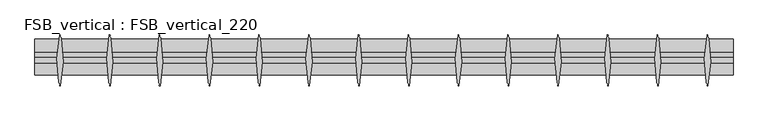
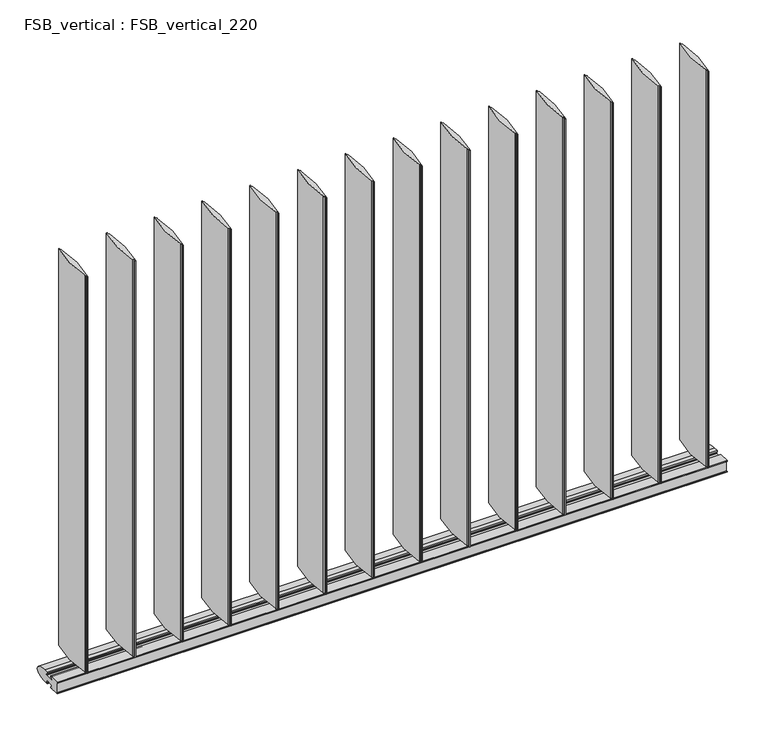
"""IFC4 building model written with IfcOpenShell, lengths in millimetres: proxy geometry, FSB_vertical : FSB_vertical_220."""

from ifc_helpers import new_model, si_unit, point, frame, frame_2d, origin, place, context, project, spatial, polyline, circle_curve, ellipse_curve, trimmed, segment, composite_curve, outline, extrude, source, transform, mapped, element, save
from ifc_brep_helpers import plane_surface, cylinder_surface, extruded_surface, advanced_brep


def fsb_vertical_fsb_vertical_220_f4ea950b(model_context):
    return source(origin(), model_context, "Body", "SolidModel", [
        extrude(outline(composite_curve([segment(polyline([(-1393.153539, 100.4881689), (-1391.2909379, 100.0769109)]), True, "CONTINUOUS"), segment(trimmed(circle_curve(frame_2d((-1392.3688535, 95.1949955)), 4.9995), [point((-1391.2909379, 100.0769109))], [point((-1387.4530862, 96.1061666))], False, "CARTESIAN"), True, "CONTINUOUS"), segment(trimmed(circle_curve(frame_2d((-1905.9456199, 2.31e-05)), 527.3242819), [point((-1387.4530862, 96.1061666))], [point((-1390.2314662, -110.0445588))], False, "CARTESIAN"), True, "CONTINUOUS"), segment(polyline([(-1390.2314662, -110.0445588), (-1392.6719903, -109.5056968)]), True, "CONTINUOUS"), segment(trimmed(circle_curve(frame_2d((-1907.0113999, -0.6886)), 525.7244419), [point((-1392.6719903, -109.5056968))], [point((-1390.846461, -100.4881227))], True, "CARTESIAN"), True, "CONTINUOUS"), segment(polyline([(-1390.846461, -100.4881227), (-1392.7090621, -100.0768648)]), True, "CONTINUOUS"), segment(trimmed(circle_curve(frame_2d((-1391.6311465, -95.1949494)), 4.9995), [point((-1392.7090621, -100.0768648))], [point((-1396.5469138, -96.1061205))], False, "CARTESIAN"), True, "CONTINUOUS"), segment(trimmed(circle_curve(frame_2d((-878.0543801, 2.31e-05)), 527.3242819), [point((-1396.5469138, -96.1061205))], [point((-1393.7685338, 110.044605))], False, "CARTESIAN"), True, "CONTINUOUS"), segment(polyline([(-1393.7685338, 110.044605), (-1391.3280097, 109.505743)]), True, "CONTINUOUS"), segment(trimmed(circle_curve(frame_2d((-876.9886001, 0.6886462)), 525.7244419), [point((-1391.3280097, 109.505743))], [point((-1393.153539, 100.4881689))], True, "CARTESIAN"), True, "CONTINUOUS")], self_intersect=False)), frame((0.0, 0.0, 60.5), z_axis=(0.0, 0.0, 1.0), x_axis=(1.0, 0.0, 0.0)), (0.0, 0.0, 1.0), 1879.0),
        extrude(outline(composite_curve([segment(polyline([(-1179.153539, 100.4881689), (-1177.2909379, 100.0769109)]), True, "CONTINUOUS"), segment(trimmed(circle_curve(frame_2d((-1178.3688535, 95.1949955)), 4.9995), [point((-1177.2909379, 100.0769109))], [point((-1173.4530862, 96.1061666))], False, "CARTESIAN"), True, "CONTINUOUS"), segment(trimmed(circle_curve(frame_2d((-1691.9456199, 2.31e-05)), 527.3242819), [point((-1173.4530862, 96.1061666))], [point((-1176.2314662, -110.0445588))], False, "CARTESIAN"), True, "CONTINUOUS"), segment(polyline([(-1176.2314662, -110.0445588), (-1178.6719903, -109.5056968)]), True, "CONTINUOUS"), segment(trimmed(circle_curve(frame_2d((-1693.0113999, -0.6886)), 525.7244419), [point((-1178.6719903, -109.5056968))], [point((-1176.846461, -100.4881227))], True, "CARTESIAN"), True, "CONTINUOUS"), segment(polyline([(-1176.846461, -100.4881227), (-1178.7090621, -100.0768648)]), True, "CONTINUOUS"), segment(trimmed(circle_curve(frame_2d((-1177.6311465, -95.1949494)), 4.9995), [point((-1178.7090621, -100.0768648))], [point((-1182.5469138, -96.1061205))], False, "CARTESIAN"), True, "CONTINUOUS"), segment(trimmed(circle_curve(frame_2d((-664.0543801, 2.31e-05)), 527.3242819), [point((-1182.5469138, -96.1061205))], [point((-1179.7685338, 110.044605))], False, "CARTESIAN"), True, "CONTINUOUS"), segment(polyline([(-1179.7685338, 110.044605), (-1177.3280097, 109.505743)]), True, "CONTINUOUS"), segment(trimmed(circle_curve(frame_2d((-662.9886001, 0.6886462)), 525.7244419), [point((-1177.3280097, 109.505743))], [point((-1179.153539, 100.4881689))], True, "CARTESIAN"), True, "CONTINUOUS")], self_intersect=False)), frame((0.0, 0.0, 60.5), z_axis=(0.0, 0.0, 1.0), x_axis=(1.0, 0.0, 0.0)), (0.0, 0.0, 1.0), 1879.0),
        extrude(outline(composite_curve([segment(polyline([(-965.153539, 100.4881689), (-963.2909379, 100.0769109)]), True, "CONTINUOUS"), segment(trimmed(circle_curve(frame_2d((-964.3688535, 95.1949955)), 4.9995), [point((-963.2909379, 100.0769109))], [point((-959.4530862, 96.1061666))], False, "CARTESIAN"), True, "CONTINUOUS"), segment(trimmed(circle_curve(frame_2d((-1477.9456199, 2.31e-05)), 527.3242819), [point((-959.4530862, 96.1061666))], [point((-962.2314662, -110.0445588))], False, "CARTESIAN"), True, "CONTINUOUS"), segment(polyline([(-962.2314662, -110.0445588), (-964.6719903, -109.5056968)]), True, "CONTINUOUS"), segment(trimmed(circle_curve(frame_2d((-1479.0113999, -0.6886)), 525.7244419), [point((-964.6719903, -109.5056968))], [point((-962.846461, -100.4881227))], True, "CARTESIAN"), True, "CONTINUOUS"), segment(polyline([(-962.846461, -100.4881227), (-964.7090621, -100.0768648)]), True, "CONTINUOUS"), segment(trimmed(circle_curve(frame_2d((-963.6311465, -95.1949494)), 4.9995), [point((-964.7090621, -100.0768648))], [point((-968.5469138, -96.1061205))], False, "CARTESIAN"), True, "CONTINUOUS"), segment(trimmed(circle_curve(frame_2d((-450.0543801, 2.31e-05)), 527.3242819), [point((-968.5469138, -96.1061205))], [point((-965.7685338, 110.044605))], False, "CARTESIAN"), True, "CONTINUOUS"), segment(polyline([(-965.7685338, 110.044605), (-963.3280097, 109.505743)]), True, "CONTINUOUS"), segment(trimmed(circle_curve(frame_2d((-448.9886001, 0.6886462)), 525.7244419), [point((-963.3280097, 109.505743))], [point((-965.153539, 100.4881689))], True, "CARTESIAN"), True, "CONTINUOUS")], self_intersect=False)), frame((0.0, 0.0, 60.5), z_axis=(0.0, 0.0, 1.0), x_axis=(1.0, 0.0, 0.0)), (0.0, 0.0, 1.0), 1879.0),
        extrude(outline(composite_curve([segment(polyline([(-751.153539, 100.4881689), (-749.2909379, 100.0769109)]), True, "CONTINUOUS"), segment(trimmed(circle_curve(frame_2d((-750.3688535, 95.1949955)), 4.9995), [point((-749.2909379, 100.0769109))], [point((-745.4530862, 96.1061666))], False, "CARTESIAN"), True, "CONTINUOUS"), segment(trimmed(circle_curve(frame_2d((-1263.9456199, 2.31e-05)), 527.3242819), [point((-745.4530862, 96.1061666))], [point((-748.2314662, -110.0445588))], False, "CARTESIAN"), True, "CONTINUOUS"), segment(polyline([(-748.2314662, -110.0445588), (-750.6719903, -109.5056968)]), True, "CONTINUOUS"), segment(trimmed(circle_curve(frame_2d((-1265.0113999, -0.6886)), 525.7244419), [point((-750.6719903, -109.5056968))], [point((-748.846461, -100.4881227))], True, "CARTESIAN"), True, "CONTINUOUS"), segment(polyline([(-748.846461, -100.4881227), (-750.7090621, -100.0768648)]), True, "CONTINUOUS"), segment(trimmed(circle_curve(frame_2d((-749.6311465, -95.1949494)), 4.9995), [point((-750.7090621, -100.0768648))], [point((-754.5469138, -96.1061205))], False, "CARTESIAN"), True, "CONTINUOUS"), segment(trimmed(circle_curve(frame_2d((-236.0543801, 2.31e-05)), 527.3242819), [point((-754.5469138, -96.1061205))], [point((-751.7685338, 110.044605))], False, "CARTESIAN"), True, "CONTINUOUS"), segment(polyline([(-751.7685338, 110.044605), (-749.3280097, 109.505743)]), True, "CONTINUOUS"), segment(trimmed(circle_curve(frame_2d((-234.9886001, 0.6886462)), 525.7244419), [point((-749.3280097, 109.505743))], [point((-751.153539, 100.4881689))], True, "CARTESIAN"), True, "CONTINUOUS")], self_intersect=False)), frame((0.0, 0.0, 60.5), z_axis=(0.0, 0.0, 1.0), x_axis=(1.0, 0.0, 0.0)), (0.0, 0.0, 1.0), 1879.0),
        extrude(outline(composite_curve([segment(polyline([(-537.153539, 100.4881689), (-535.2909379, 100.0769109)]), True, "CONTINUOUS"), segment(trimmed(circle_curve(frame_2d((-536.3688535, 95.1949955)), 4.9995), [point((-535.2909379, 100.0769109))], [point((-531.4530862, 96.1061666))], False, "CARTESIAN"), True, "CONTINUOUS"), segment(trimmed(circle_curve(frame_2d((-1049.9456199, 2.31e-05)), 527.3242819), [point((-531.4530862, 96.1061666))], [point((-534.2314662, -110.0445588))], False, "CARTESIAN"), True, "CONTINUOUS"), segment(polyline([(-534.2314662, -110.0445588), (-536.6719903, -109.5056968)]), True, "CONTINUOUS"), segment(trimmed(circle_curve(frame_2d((-1051.0113999, -0.6886)), 525.7244419), [point((-536.6719903, -109.5056968))], [point((-534.846461, -100.4881227))], True, "CARTESIAN"), True, "CONTINUOUS"), segment(polyline([(-534.846461, -100.4881227), (-536.7090621, -100.0768648)]), True, "CONTINUOUS"), segment(trimmed(circle_curve(frame_2d((-535.6311465, -95.1949494)), 4.9995), [point((-536.7090621, -100.0768648))], [point((-540.5469138, -96.1061205))], False, "CARTESIAN"), True, "CONTINUOUS"), segment(trimmed(circle_curve(frame_2d((-22.0543801, 2.31e-05)), 527.3242819), [point((-540.5469138, -96.1061205))], [point((-537.7685338, 110.044605))], False, "CARTESIAN"), True, "CONTINUOUS"), segment(polyline([(-537.7685338, 110.044605), (-535.3280097, 109.505743)]), True, "CONTINUOUS"), segment(trimmed(circle_curve(frame_2d((-20.9886001, 0.6886462)), 525.7244419), [point((-535.3280097, 109.505743))], [point((-537.153539, 100.4881689))], True, "CARTESIAN"), True, "CONTINUOUS")], self_intersect=False)), frame((0.0, 0.0, 60.5), z_axis=(0.0, 0.0, 1.0), x_axis=(1.0, 0.0, 0.0)), (0.0, 0.0, 1.0), 1879.0),
        extrude(outline(composite_curve([segment(polyline([(-323.153539, 100.4881689), (-321.2909379, 100.0769109)]), True, "CONTINUOUS"), segment(trimmed(circle_curve(frame_2d((-322.3688535, 95.1949955)), 4.9995), [point((-321.2909379, 100.0769109))], [point((-317.4530862, 96.1061666))], False, "CARTESIAN"), True, "CONTINUOUS"), segment(trimmed(circle_curve(frame_2d((-835.9456199, 2.31e-05)), 527.3242819), [point((-317.4530862, 96.1061666))], [point((-320.2314662, -110.0445588))], False, "CARTESIAN"), True, "CONTINUOUS"), segment(polyline([(-320.2314662, -110.0445588), (-322.6719903, -109.5056968)]), True, "CONTINUOUS"), segment(trimmed(circle_curve(frame_2d((-837.0113999, -0.6886)), 525.7244419), [point((-322.6719903, -109.5056968))], [point((-320.846461, -100.4881227))], True, "CARTESIAN"), True, "CONTINUOUS"), segment(polyline([(-320.846461, -100.4881227), (-322.7090621, -100.0768648)]), True, "CONTINUOUS"), segment(trimmed(circle_curve(frame_2d((-321.6311465, -95.1949494)), 4.9995), [point((-322.7090621, -100.0768648))], [point((-326.5469138, -96.1061205))], False, "CARTESIAN"), True, "CONTINUOUS"), segment(trimmed(circle_curve(frame_2d((191.9456199, 2.31e-05)), 527.3242819), [point((-326.5469138, -96.1061205))], [point((-323.7685338, 110.044605))], False, "CARTESIAN"), True, "CONTINUOUS"), segment(polyline([(-323.7685338, 110.044605), (-321.3280097, 109.505743)]), True, "CONTINUOUS"), segment(trimmed(circle_curve(frame_2d((193.0113999, 0.6886462)), 525.7244419), [point((-321.3280097, 109.505743))], [point((-323.153539, 100.4881689))], True, "CARTESIAN"), True, "CONTINUOUS")], self_intersect=False)), frame((0.0, 0.0, 60.5), z_axis=(0.0, 0.0, 1.0), x_axis=(1.0, 0.0, 0.0)), (0.0, 0.0, 1.0), 1879.0),
        extrude(outline(composite_curve([segment(polyline([(-109.153539, 100.4881689), (-107.2909379, 100.0769109)]), True, "CONTINUOUS"), segment(trimmed(circle_curve(frame_2d((-108.3688535, 95.1949955)), 4.9995), [point((-107.2909379, 100.0769109))], [point((-103.4530862, 96.1061666))], False, "CARTESIAN"), True, "CONTINUOUS"), segment(trimmed(circle_curve(frame_2d((-621.9456199, 2.31e-05)), 527.3242819), [point((-103.4530862, 96.1061666))], [point((-106.2314662, -110.0445588))], False, "CARTESIAN"), True, "CONTINUOUS"), segment(polyline([(-106.2314662, -110.0445588), (-108.6719903, -109.5056968)]), True, "CONTINUOUS"), segment(trimmed(circle_curve(frame_2d((-623.0113999, -0.6886)), 525.7244419), [point((-108.6719903, -109.5056968))], [point((-106.846461, -100.4881227))], True, "CARTESIAN"), True, "CONTINUOUS"), segment(polyline([(-106.846461, -100.4881227), (-108.7090621, -100.0768648)]), True, "CONTINUOUS"), segment(trimmed(circle_curve(frame_2d((-107.6311465, -95.1949494)), 4.9995), [point((-108.7090621, -100.0768648))], [point((-112.5469138, -96.1061205))], False, "CARTESIAN"), True, "CONTINUOUS"), segment(trimmed(circle_curve(frame_2d((405.9456199, 2.31e-05)), 527.3242819), [point((-112.5469138, -96.1061205))], [point((-109.7685338, 110.044605))], False, "CARTESIAN"), True, "CONTINUOUS"), segment(polyline([(-109.7685338, 110.044605), (-107.3280097, 109.505743)]), True, "CONTINUOUS"), segment(trimmed(circle_curve(frame_2d((407.0113999, 0.6886462)), 525.7244419), [point((-107.3280097, 109.505743))], [point((-109.153539, 100.4881689))], True, "CARTESIAN"), True, "CONTINUOUS")], self_intersect=False)), frame((0.0, 0.0, 60.5), z_axis=(0.0, 0.0, 1.0), x_axis=(1.0, 0.0, 0.0)), (0.0, 0.0, 1.0), 1879.0),
        extrude(outline(composite_curve([segment(polyline([(104.846461, 100.4881689), (106.7090621, 100.0769109)]), True, "CONTINUOUS"), segment(trimmed(circle_curve(frame_2d((105.6311465, 95.1949955)), 4.9995), [point((106.7090621, 100.0769109))], [point((110.5469138, 96.1061666))], False, "CARTESIAN"), True, "CONTINUOUS"), segment(trimmed(circle_curve(frame_2d((-407.9456199, 2.31e-05)), 527.3242819), [point((110.5469138, 96.1061666))], [point((107.7685338, -110.0445588))], False, "CARTESIAN"), True, "CONTINUOUS"), segment(polyline([(107.7685338, -110.0445588), (105.3280097, -109.5056968)]), True, "CONTINUOUS"), segment(trimmed(circle_curve(frame_2d((-409.0113999, -0.6886)), 525.7244419), [point((105.3280097, -109.5056968))], [point((107.153539, -100.4881227))], True, "CARTESIAN"), True, "CONTINUOUS"), segment(polyline([(107.153539, -100.4881227), (105.2909379, -100.0768648)]), True, "CONTINUOUS"), segment(trimmed(circle_curve(frame_2d((106.3688535, -95.1949494)), 4.9995), [point((105.2909379, -100.0768648))], [point((101.4530862, -96.1061205))], False, "CARTESIAN"), True, "CONTINUOUS"), segment(trimmed(circle_curve(frame_2d((619.9456199, 2.31e-05)), 527.3242819), [point((101.4530862, -96.1061205))], [point((104.2314662, 110.044605))], False, "CARTESIAN"), True, "CONTINUOUS"), segment(polyline([(104.2314662, 110.044605), (106.6719903, 109.505743)]), True, "CONTINUOUS"), segment(trimmed(circle_curve(frame_2d((621.0113999, 0.6886462)), 525.7244419), [point((106.6719903, 109.505743))], [point((104.846461, 100.4881689))], True, "CARTESIAN"), True, "CONTINUOUS")], self_intersect=False)), frame((0.0, 0.0, 60.5), z_axis=(0.0, 0.0, 1.0), x_axis=(1.0, 0.0, 0.0)), (0.0, 0.0, 1.0), 1879.0),
        extrude(outline(composite_curve([segment(polyline([(318.846461, 100.4881689), (320.7090621, 100.0769109)]), True, "CONTINUOUS"), segment(trimmed(circle_curve(frame_2d((319.6311465, 95.1949955)), 4.9995), [point((320.7090621, 100.0769109))], [point((324.5469138, 96.1061666))], False, "CARTESIAN"), True, "CONTINUOUS"), segment(trimmed(circle_curve(frame_2d((-193.9456199, 2.31e-05)), 527.3242819), [point((324.5469138, 96.1061666))], [point((321.7685338, -110.0445588))], False, "CARTESIAN"), True, "CONTINUOUS"), segment(polyline([(321.7685338, -110.0445588), (319.3280097, -109.5056968)]), True, "CONTINUOUS"), segment(trimmed(circle_curve(frame_2d((-195.0113999, -0.6886)), 525.7244419), [point((319.3280097, -109.5056968))], [point((321.153539, -100.4881227))], True, "CARTESIAN"), True, "CONTINUOUS"), segment(polyline([(321.153539, -100.4881227), (319.2909379, -100.0768648)]), True, "CONTINUOUS"), segment(trimmed(circle_curve(frame_2d((320.3688535, -95.1949494)), 4.9995), [point((319.2909379, -100.0768648))], [point((315.4530862, -96.1061205))], False, "CARTESIAN"), True, "CONTINUOUS"), segment(trimmed(circle_curve(frame_2d((833.9456199, 2.31e-05)), 527.3242819), [point((315.4530862, -96.1061205))], [point((318.2314662, 110.044605))], False, "CARTESIAN"), True, "CONTINUOUS"), segment(polyline([(318.2314662, 110.044605), (320.6719903, 109.505743)]), True, "CONTINUOUS"), segment(trimmed(circle_curve(frame_2d((835.0113999, 0.6886462)), 525.7244419), [point((320.6719903, 109.505743))], [point((318.846461, 100.4881689))], True, "CARTESIAN"), True, "CONTINUOUS")], self_intersect=False)), frame((0.0, 0.0, 60.5), z_axis=(0.0, 0.0, 1.0), x_axis=(1.0, 0.0, 0.0)), (0.0, 0.0, 1.0), 1879.0),
        extrude(outline(composite_curve([segment(polyline([(532.846461, 100.4881689), (534.7090621, 100.0769109)]), True, "CONTINUOUS"), segment(trimmed(circle_curve(frame_2d((533.6311465, 95.1949955)), 4.9995), [point((534.7090621, 100.0769109))], [point((538.5469138, 96.1061666))], False, "CARTESIAN"), True, "CONTINUOUS"), segment(trimmed(circle_curve(frame_2d((20.0543801, 2.31e-05)), 527.3242819), [point((538.5469138, 96.1061666))], [point((535.7685338, -110.0445588))], False, "CARTESIAN"), True, "CONTINUOUS"), segment(polyline([(535.7685338, -110.0445588), (533.3280097, -109.5056968)]), True, "CONTINUOUS"), segment(trimmed(circle_curve(frame_2d((18.9886001, -0.6886)), 525.7244419), [point((533.3280097, -109.5056968))], [point((535.153539, -100.4881227))], True, "CARTESIAN"), True, "CONTINUOUS"), segment(polyline([(535.153539, -100.4881227), (533.2909379, -100.0768648)]), True, "CONTINUOUS"), segment(trimmed(circle_curve(frame_2d((534.3688535, -95.1949494)), 4.9995), [point((533.2909379, -100.0768648))], [point((529.4530862, -96.1061205))], False, "CARTESIAN"), True, "CONTINUOUS"), segment(trimmed(circle_curve(frame_2d((1047.9456199, 2.31e-05)), 527.3242819), [point((529.4530862, -96.1061205))], [point((532.2314662, 110.044605))], False, "CARTESIAN"), True, "CONTINUOUS"), segment(polyline([(532.2314662, 110.044605), (534.6719903, 109.505743)]), True, "CONTINUOUS"), segment(trimmed(circle_curve(frame_2d((1049.0113999, 0.6886462)), 525.7244419), [point((534.6719903, 109.505743))], [point((532.846461, 100.4881689))], True, "CARTESIAN"), True, "CONTINUOUS")], self_intersect=False)), frame((0.0, 0.0, 60.5), z_axis=(0.0, 0.0, 1.0), x_axis=(1.0, 0.0, 0.0)), (0.0, 0.0, 1.0), 1879.0),
        extrude(outline(composite_curve([segment(polyline([(746.846461, 100.4881689), (748.7090621, 100.0769109)]), True, "CONTINUOUS"), segment(trimmed(circle_curve(frame_2d((747.6311465, 95.1949955)), 4.9995), [point((748.7090621, 100.0769109))], [point((752.5469138, 96.1061666))], False, "CARTESIAN"), True, "CONTINUOUS"), segment(trimmed(circle_curve(frame_2d((234.0543801, 2.31e-05)), 527.3242819), [point((752.5469138, 96.1061666))], [point((749.7685338, -110.0445588))], False, "CARTESIAN"), True, "CONTINUOUS"), segment(polyline([(749.7685338, -110.0445588), (747.3280097, -109.5056968)]), True, "CONTINUOUS"), segment(trimmed(circle_curve(frame_2d((232.9886001, -0.6886)), 525.7244419), [point((747.3280097, -109.5056968))], [point((749.153539, -100.4881227))], True, "CARTESIAN"), True, "CONTINUOUS"), segment(polyline([(749.153539, -100.4881227), (747.2909379, -100.0768648)]), True, "CONTINUOUS"), segment(trimmed(circle_curve(frame_2d((748.3688535, -95.1949494)), 4.9995), [point((747.2909379, -100.0768648))], [point((743.4530862, -96.1061205))], False, "CARTESIAN"), True, "CONTINUOUS"), segment(trimmed(circle_curve(frame_2d((1261.9456199, 2.31e-05)), 527.3242819), [point((743.4530862, -96.1061205))], [point((746.2314662, 110.044605))], False, "CARTESIAN"), True, "CONTINUOUS"), segment(polyline([(746.2314662, 110.044605), (748.6719903, 109.505743)]), True, "CONTINUOUS"), segment(trimmed(circle_curve(frame_2d((1263.0113999, 0.6886462)), 525.7244419), [point((748.6719903, 109.505743))], [point((746.846461, 100.4881689))], True, "CARTESIAN"), True, "CONTINUOUS")], self_intersect=False)), frame((0.0, 0.0, 60.5), z_axis=(0.0, 0.0, 1.0), x_axis=(1.0, 0.0, 0.0)), (0.0, 0.0, 1.0), 1879.0),
        extrude(outline(composite_curve([segment(polyline([(960.846461, 100.4881689), (962.7090621, 100.0769109)]), True, "CONTINUOUS"), segment(trimmed(circle_curve(frame_2d((961.6311465, 95.1949955)), 4.9995), [point((962.7090621, 100.0769109))], [point((966.5469138, 96.1061666))], False, "CARTESIAN"), True, "CONTINUOUS"), segment(trimmed(circle_curve(frame_2d((448.0543801, 2.31e-05)), 527.3242819), [point((966.5469138, 96.1061666))], [point((963.7685338, -110.0445588))], False, "CARTESIAN"), True, "CONTINUOUS"), segment(polyline([(963.7685338, -110.0445588), (961.3280097, -109.5056968)]), True, "CONTINUOUS"), segment(trimmed(circle_curve(frame_2d((446.9886001, -0.6886)), 525.7244419), [point((961.3280097, -109.5056968))], [point((963.153539, -100.4881227))], True, "CARTESIAN"), True, "CONTINUOUS"), segment(polyline([(963.153539, -100.4881227), (961.2909379, -100.0768648)]), True, "CONTINUOUS"), segment(trimmed(circle_curve(frame_2d((962.3688535, -95.1949494)), 4.9995), [point((961.2909379, -100.0768648))], [point((957.4530862, -96.1061205))], False, "CARTESIAN"), True, "CONTINUOUS"), segment(trimmed(circle_curve(frame_2d((1475.9456199, 2.31e-05)), 527.3242819), [point((957.4530862, -96.1061205))], [point((960.2314662, 110.044605))], False, "CARTESIAN"), True, "CONTINUOUS"), segment(polyline([(960.2314662, 110.044605), (962.6719903, 109.505743)]), True, "CONTINUOUS"), segment(trimmed(circle_curve(frame_2d((1477.0113999, 0.6886462)), 525.7244419), [point((962.6719903, 109.505743))], [point((960.846461, 100.4881689))], True, "CARTESIAN"), True, "CONTINUOUS")], self_intersect=False)), frame((0.0, 0.0, 60.5), z_axis=(0.0, 0.0, 1.0), x_axis=(1.0, 0.0, 0.0)), (0.0, 0.0, 1.0), 1879.0),
        extrude(outline(composite_curve([segment(polyline([(1174.846461, 100.4881689), (1176.7090621, 100.0769109)]), True, "CONTINUOUS"), segment(trimmed(circle_curve(frame_2d((1175.6311465, 95.1949955)), 4.9995), [point((1176.7090621, 100.0769109))], [point((1180.5469138, 96.1061666))], False, "CARTESIAN"), True, "CONTINUOUS"), segment(trimmed(circle_curve(frame_2d((662.0543801, 2.31e-05)), 527.3242819), [point((1180.5469138, 96.1061666))], [point((1177.7685338, -110.0445588))], False, "CARTESIAN"), True, "CONTINUOUS"), segment(polyline([(1177.7685338, -110.0445588), (1175.3280097, -109.5056968)]), True, "CONTINUOUS"), segment(trimmed(circle_curve(frame_2d((660.9886001, -0.6886)), 525.7244419), [point((1175.3280097, -109.5056968))], [point((1177.153539, -100.4881227))], True, "CARTESIAN"), True, "CONTINUOUS"), segment(polyline([(1177.153539, -100.4881227), (1175.2909379, -100.0768648)]), True, "CONTINUOUS"), segment(trimmed(circle_curve(frame_2d((1176.3688535, -95.1949494)), 4.9995), [point((1175.2909379, -100.0768648))], [point((1171.4530862, -96.1061205))], False, "CARTESIAN"), True, "CONTINUOUS"), segment(trimmed(circle_curve(frame_2d((1689.9456199, 2.31e-05)), 527.3242819), [point((1171.4530862, -96.1061205))], [point((1174.2314662, 110.044605))], False, "CARTESIAN"), True, "CONTINUOUS"), segment(polyline([(1174.2314662, 110.044605), (1176.6719903, 109.505743)]), True, "CONTINUOUS"), segment(trimmed(circle_curve(frame_2d((1691.0113999, 0.6886462)), 525.7244419), [point((1176.6719903, 109.505743))], [point((1174.846461, 100.4881689))], True, "CARTESIAN"), True, "CONTINUOUS")], self_intersect=False)), frame((0.0, 0.0, 60.5), z_axis=(0.0, 0.0, 1.0), x_axis=(1.0, 0.0, 0.0)), (0.0, 0.0, 1.0), 1879.0),
        extrude(outline(composite_curve([segment(polyline([(1388.846461, 100.4881689), (1390.7090621, 100.0769109)]), True, "CONTINUOUS"), segment(trimmed(circle_curve(frame_2d((1389.6311465, 95.1949955)), 4.9995), [point((1390.7090621, 100.0769109))], [point((1394.5469138, 96.1061666))], False, "CARTESIAN"), True, "CONTINUOUS"), segment(trimmed(circle_curve(frame_2d((876.0543801, 2.31e-05)), 527.3242819), [point((1394.5469138, 96.1061666))], [point((1391.7685338, -110.0445588))], False, "CARTESIAN"), True, "CONTINUOUS"), segment(polyline([(1391.7685338, -110.0445588), (1389.3280097, -109.5056968)]), True, "CONTINUOUS"), segment(trimmed(circle_curve(frame_2d((874.9886001, -0.6886)), 525.7244419), [point((1389.3280097, -109.5056968))], [point((1391.153539, -100.4881227))], True, "CARTESIAN"), True, "CONTINUOUS"), segment(polyline([(1391.153539, -100.4881227), (1389.2909379, -100.0768648)]), True, "CONTINUOUS"), segment(trimmed(circle_curve(frame_2d((1390.3688535, -95.1949494)), 4.9995), [point((1389.2909379, -100.0768648))], [point((1385.4530862, -96.1061205))], False, "CARTESIAN"), True, "CONTINUOUS"), segment(trimmed(circle_curve(frame_2d((1903.9456199, 2.31e-05)), 527.3242819), [point((1385.4530862, -96.1061205))], [point((1388.2314662, 110.044605))], False, "CARTESIAN"), True, "CONTINUOUS"), segment(polyline([(1388.2314662, 110.044605), (1390.6719903, 109.505743)]), True, "CONTINUOUS"), segment(trimmed(circle_curve(frame_2d((1905.0113999, 0.6886462)), 525.7244419), [point((1390.6719903, 109.505743))], [point((1388.846461, 100.4881689))], True, "CARTESIAN"), True, "CONTINUOUS")], self_intersect=False)), frame((0.0, 0.0, 60.5), z_axis=(0.0, 0.0, 1.0), x_axis=(1.0, 0.0, 0.0)), (0.0, 0.0, 1.0), 1879.0),
        advanced_brep(
        [(-1500.0, 35.515, 27.4994269), (-1500.0, 35.515, -27.5000975), (-1500.0, 14.55, -27.5000975), (-1500.0, 14.55, -22.4), (-1500.0, 16.55, -22.4), (-1500.0, 16.55, -24.5000975), (-1500.0, 17.55, -25.5000975), (-1500.0, 22.175, -25.5000975), (-1500.0, 22.175, -14.05), (-1500.0, 18.5225, -14.05), (-1500.0, 18.5225, -11.0), (-1500.0, -18.5225, -11.0), (-1500.0, -18.5225, -14.05), (-1500.0, -22.175, -14.05), (-1500.0, -22.175, -25.3000975), (-1500.0, -17.55, -25.3000975), (-1500.0, -16.55, -24.3000975), (-1500.0, -16.55, -22.4), (-1500.0, -14.55, -22.4), (-1500.0, -14.55, -27.5000975), (-1500.0, -63.0727525, -27.5000975), (-1500.0, -63.0727525, -24.0000975), (-1500.0, -62.0727525, -23.0000975), (-1500.0, -60.5727525, -23.0000975), (-1500.0, -60.5727525, -25.0000975), (-1500.0, -57.5727525, -25.0000975), (-1500.0, -57.5727525, 25.0000975), (-1500.0, -60.5727525, 25.0000975), (-1500.0, -60.5727525, 23.0000975), (-1500.0, -62.0727525, 23.0000975), (-1500.0, -63.0727525, 24.0000975), (-1500.0, -63.0727525, 27.5000975), (-1500.0, -14.55, 27.5000975), (-1500.0, -14.55, 22.4), (-1500.0, -16.55, 22.4), (-1500.0, -16.55, 24.3000975), (-1500.0, -17.55, 25.3000975), (-1500.0, -22.175, 25.3000975), (-1500.0, -22.175, 14.05), (-1500.0, -18.5225, 14.05), (-1500.0, -18.5225, 11.0), (-1500.0, 18.5225, 11.0), (-1500.0, 18.5225, 14.05), (-1500.0, 22.175, 14.05), (-1500.0, 22.175, 25.5000975), (-1500.0, 17.55, 25.5000975), (-1500.0, 16.55, 24.5000975), (-1500.0, 16.55, 22.4), (-1500.0, 14.55, 22.4), (-1500.0, 14.55, 27.4994269), (1500.0, 35.515, 27.4994269), (1500.0, 14.55, 27.4994269), (1500.0, 14.55, 22.4), (1500.0, 16.55, 22.4), (1500.0, 16.55, 24.5000975), (1500.0, 17.55, 25.5000975), (1500.0, 22.175, 25.5000975), (1500.0, 22.175, 14.05), (1500.0, 18.5225, 14.05), (1500.0, 18.5225, 11.0), (1500.0, -18.5225, 11.0), (1500.0, -18.5225, 14.05), (1500.0, -22.175, 14.05), (1500.0, -22.175, 25.3000975), (1500.0, -17.55, 25.3000975), (1500.0, -16.55, 24.3000975), (1500.0, -16.55, 22.4), (1500.0, -14.55, 22.4), (1500.0, -14.55, 27.5000975), (1500.0, -63.0727525, 27.5000975), (1500.0, -63.0727525, 24.0000975), (1500.0, -62.0727525, 23.0000975), (1500.0, -60.5727525, 23.0000975), (1500.0, -60.5727525, 25.0000975), (1500.0, -57.5727525, 25.0000975), (1500.0, -57.5727525, -25.0000975), (1500.0, -60.5727525, -25.0000975), (1500.0, -60.5727525, -23.0000975), (1500.0, -62.0727525, -23.0000975), (1500.0, -63.0727525, -24.0000975), (1500.0, -63.0727525, -27.5000975), (1500.0, -14.55, -27.5000975), (1500.0, -14.55, -22.4), (1500.0, -16.55, -22.4), (1500.0, -16.55, -24.3000975), (1500.0, -17.55, -25.3000975), (1500.0, -22.175, -25.3000975), (1500.0, -22.175, -14.05), (1500.0, -18.5225, -14.05), (1500.0, -18.5225, -11.0), (1500.0, 18.5225, -11.0), (1500.0, 18.5225, -14.05), (1500.0, 22.175, -14.05), (1500.0, 22.175, -25.5000975), (1500.0, 17.55, -25.5000975), (1500.0, 16.55, -24.5000975), (1500.0, 16.55, -22.4), (1500.0, 14.55, -22.4), (1500.0, 14.55, -27.5000975), (1500.0, 35.515, -27.5000975)],
        [
            (0, 1, ellipse_curve(frame((-1500.0, 35.515, -0.0003353), z_axis=(-1.0, 0.0, 0.0), x_axis=(0.0, 1.0, 0.0)), 56.4122475, 27.4997622)),
            (1, 2),
            (2, 3),
            (3, 4),
            (4, 5),
            (5, 6),
            (6, 7),
            (7, 8),
            (8, 9),
            (9, 10),
            (10, 11),
            (11, 12),
            (12, 13),
            (13, 14),
            (14, 15),
            (15, 16),
            (16, 17),
            (17, 18),
            (18, 19),
            (19, 20),
            (20, 21),
            (21, 22, circle_curve(frame((-1500.0, -62.0727525, -24.0000975), z_axis=(-1.0, 0.0, 0.0), x_axis=(0.0, 0.0, 1.0)), 1.0)),
            (22, 23),
            (23, 24),
            (24, 25),
            (25, 26),
            (26, 27),
            (27, 28),
            (28, 29),
            (29, 30, circle_curve(frame((-1500.0, -62.0727525, 24.0000975), z_axis=(-1.0, 0.0, 0.0), x_axis=(0.0, -1.0, 0.0)), 1.0)),
            (30, 31),
            (31, 32),
            (32, 33),
            (33, 34),
            (34, 35),
            (35, 36),
            (36, 37),
            (37, 38),
            (38, 39),
            (39, 40),
            (40, 41),
            (41, 42),
            (42, 43),
            (43, 44),
            (44, 45),
            (45, 46),
            (46, 47),
            (47, 48),
            (48, 49),
            (49, 0),
            (50, 51),
            (51, 52),
            (52, 53),
            (53, 54),
            (54, 55),
            (55, 56),
            (56, 57),
            (57, 58),
            (58, 59),
            (59, 60),
            (60, 61),
            (61, 62),
            (62, 63),
            (63, 64),
            (64, 65),
            (65, 66),
            (66, 67),
            (67, 68),
            (68, 69),
            (69, 70),
            (70, 71, circle_curve(frame((1500.0, -62.0727525, 24.0000975), z_axis=(1.0, 0.0, 0.0), x_axis=(0.0, -1.0, 0.0)), 1.0)),
            (71, 72),
            (72, 73),
            (73, 74),
            (74, 75),
            (75, 76),
            (76, 77),
            (77, 78),
            (78, 79, circle_curve(frame((1500.0, -62.0727525, -24.0000975), z_axis=(1.0, 0.0, 0.0), x_axis=(0.0, 0.0, 1.0)), 1.0)),
            (79, 80),
            (80, 81),
            (81, 82),
            (82, 83),
            (83, 84),
            (84, 85),
            (85, 86),
            (86, 87),
            (87, 88),
            (88, 89),
            (89, 90),
            (90, 91),
            (91, 92),
            (92, 93),
            (93, 94),
            (94, 95),
            (95, 96),
            (96, 97),
            (97, 98),
            (98, 99),
            (99, 50, ellipse_curve(frame((1500.0, 35.515, -0.0003353), z_axis=(1.0, 0.0, 0.0), x_axis=(0.0, 1.0, 0.0)), 56.4122475, 27.4997622)),
            (0, 50),
            (99, 1),
            (98, 2),
            (97, 3),
            (96, 4),
            (95, 5),
            (94, 6),
            (93, 7),
            (92, 8),
            (91, 9),
            (90, 10),
            (89, 11),
            (88, 12),
            (87, 13),
            (86, 14),
            (85, 15),
            (84, 16),
            (83, 17),
            (82, 18),
            (81, 19),
            (80, 20),
            (79, 21),
            (78, 22),
            (77, 23),
            (76, 24),
            (75, 25),
            (74, 26),
            (73, 27),
            (72, 28),
            (71, 29),
            (70, 30),
            (69, 31),
            (68, 32),
            (67, 33),
            (66, 34),
            (65, 35),
            (64, 36),
            (63, 37),
            (62, 38),
            (61, 39),
            (60, 40),
            (59, 41),
            (58, 42),
            (57, 43),
            (56, 44),
            (55, 45),
            (54, 46),
            (53, 47),
            (52, 48),
            (51, 49),
        ],
        [
            plane_surface(frame((-1500.0, 0.0, 0.0), z_axis=(-1.0, 0.0, 0.0), x_axis=(0.0, -1.0, 0.0))),
            plane_surface(frame((1500.0, 0.0, 0.0), z_axis=(1.0, 0.0, 0.0), x_axis=(0.0, -1.0, 0.0))),
            extruded_surface(trimmed(ellipse_curve(frame((1500.0, 35.515, -0.0003353), z_axis=(-1.0, 0.0, 0.0), x_axis=(0.0, 1.0, 0.0)), 56.4122475, 27.4997622), [point((1500.0, 35.515, 27.4994269))], [point((1500.0, 35.515, -27.5000975))], True, "CARTESIAN"), (-3000.0, 0.0, 0.0), 3000.0),
            plane_surface(frame((-1500.0, 35.515, -27.5000975), z_axis=(0.0, 0.0, -1.0), x_axis=(1.0, 0.0, 0.0))),
            plane_surface(frame((-1500.0, 14.55, -27.5000975), z_axis=(0.0, -1.0, 0.0), x_axis=(1.0, 0.0, 0.0))),
            plane_surface(frame((-1500.0, 14.55, -22.4), z_axis=(0.0, 0.0, 1.0), x_axis=(1.0, 0.0, 0.0))),
            plane_surface(frame((-1500.0, 16.55, -22.4), z_axis=(0.0, 1.0, 0.0), x_axis=(1.0, 0.0, 0.0))),
            plane_surface(frame((-1500.0, 16.55, -24.5000975), z_axis=(0.0, 0.707106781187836, 0.707106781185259), x_axis=(1.0, 0.0, 0.0))),
            plane_surface(frame((-1500.0, 17.55, -25.5000975), z_axis=(0.0, 0.0, 1.0), x_axis=(1.0, 0.0, 0.0))),
            plane_surface(frame((-1500.0, 22.175, -25.5000975), z_axis=(0.0, -1.0, 0.0), x_axis=(1.0, 0.0, 0.0))),
            plane_surface(frame((-1500.0, 22.175, -14.05), z_axis=(0.0, 0.0, -1.0), x_axis=(1.0, 0.0, 0.0))),
            plane_surface(frame((-1500.0, 18.5225, -14.05), z_axis=(0.0, -1.0, 0.0), x_axis=(1.0, 0.0, 0.0))),
            plane_surface(frame((-1500.0, 18.5225, -11.0), z_axis=(0.0, 0.0, -1.0), x_axis=(1.0, 0.0, 0.0))),
            plane_surface(frame((-1500.0, -18.5225, -11.0), z_axis=(0.0, 1.0, 0.0), x_axis=(1.0, 0.0, 0.0))),
            plane_surface(frame((-1500.0, -18.5225, -14.05), z_axis=(0.0, 0.0, -1.0), x_axis=(1.0, 0.0, 0.0))),
            plane_surface(frame((-1500.0, -22.175, -14.05), z_axis=(0.0, 1.0, 0.0), x_axis=(1.0, 0.0, 0.0))),
            plane_surface(frame((-1500.0, -22.175, -25.3000975), z_axis=(0.0, 0.0, 1.0), x_axis=(1.0, 0.0, 0.0))),
            plane_surface(frame((-1500.0, -17.55, -25.3000975), z_axis=(0.0, -0.7071067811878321, 0.7071067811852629), x_axis=(1.0, 0.0, 0.0))),
            plane_surface(frame((-1500.0, -16.55, -24.3000975), z_axis=(0.0, -1.0, 0.0), x_axis=(1.0, 0.0, 0.0))),
            plane_surface(frame((-1500.0, -16.55, -22.4), z_axis=(0.0, 0.0, 1.0), x_axis=(1.0, 0.0, 0.0))),
            plane_surface(frame((-1500.0, -14.55, -22.4), z_axis=(0.0, 1.0, 0.0), x_axis=(1.0, 0.0, 0.0))),
            plane_surface(frame((-1500.0, -14.55, -27.5000975), z_axis=(0.0, 0.0, -1.0), x_axis=(1.0, 0.0, 0.0))),
            plane_surface(frame((-1500.0, -63.0727525, -27.5000975), z_axis=(0.0, -1.0, 0.0), x_axis=(1.0, 0.0, 0.0))),
            cylinder_surface(frame((-1500.0, -62.0727525, -24.0000975), z_axis=(-1.0, 0.0, 0.0), x_axis=(0.0, 0.0, 1.0)), 1.0),
            plane_surface(frame((-1500.0, -62.0727525, -23.0000975), z_axis=(0.0, 0.0, 1.0), x_axis=(1.0, 0.0, 0.0))),
            plane_surface(frame((-1500.0, -60.5727525, -23.0000975), z_axis=(0.0, 1.0, 0.0), x_axis=(1.0, 0.0, 0.0))),
            plane_surface(frame((-1500.0, -60.5727525, -25.0000975), z_axis=(0.0, 0.0, 1.0), x_axis=(1.0, 0.0, 0.0))),
            plane_surface(frame((-1500.0, -57.5727525, -25.0000975), z_axis=(0.0, -1.0, 0.0), x_axis=(1.0, 0.0, 0.0))),
            plane_surface(frame((-1500.0, -57.5727525, 25.0000975), z_axis=(0.0, 0.0, -1.0), x_axis=(1.0, 0.0, 0.0))),
            plane_surface(frame((-1500.0, -60.5727525, 25.0000975), z_axis=(0.0, 1.0, 0.0), x_axis=(1.0, 0.0, 0.0))),
            plane_surface(frame((-1500.0, -60.5727525, 23.0000975), z_axis=(0.0, 0.0, -1.0), x_axis=(1.0, 0.0, 0.0))),
            cylinder_surface(frame((-1500.0, -62.0727525, 24.0000975), z_axis=(-1.0, 0.0, 0.0), x_axis=(0.0, -1.0, 0.0)), 1.0),
            plane_surface(frame((-1500.0, -63.0727525, 24.0000975), z_axis=(0.0, -1.0, 0.0), x_axis=(1.0, 0.0, 0.0))),
            plane_surface(frame((-1500.0, -63.0727525, 27.5000975), z_axis=(0.0, 0.0, 1.0), x_axis=(1.0, 0.0, 0.0))),
            plane_surface(frame((-1500.0, -14.55, 27.5000975), z_axis=(0.0, 1.0, 0.0), x_axis=(1.0, 0.0, 0.0))),
            plane_surface(frame((-1500.0, -14.55, 22.4), z_axis=(0.0, 0.0, -1.0), x_axis=(1.0, 0.0, 0.0))),
            plane_surface(frame((-1500.0, -16.55, 22.4), z_axis=(0.0, -1.0, 0.0), x_axis=(1.0, 0.0, 0.0))),
            plane_surface(frame((-1500.0, -16.55, 24.3000975), z_axis=(0.0, -0.7071067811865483, -0.7071067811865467), x_axis=(1.0, 0.0, 0.0))),
            plane_surface(frame((-1500.0, -17.55, 25.3000975), z_axis=(0.0, 0.0, -1.0), x_axis=(1.0, 0.0, 0.0))),
            plane_surface(frame((-1500.0, -22.175, 25.3000975), z_axis=(0.0, 1.0, 0.0), x_axis=(1.0, 0.0, 0.0))),
            plane_surface(frame((-1500.0, -22.175, 14.05), z_axis=(0.0, 0.0, 1.0), x_axis=(1.0, 0.0, 0.0))),
            plane_surface(frame((-1500.0, -18.5225, 14.05), z_axis=(0.0, 1.0, 0.0), x_axis=(1.0, 0.0, 0.0))),
            plane_surface(frame((-1500.0, -18.5225, 11.0), z_axis=(0.0, 0.0, 1.0), x_axis=(1.0, 0.0, 0.0))),
            plane_surface(frame((-1500.0, 18.5225, 11.0), z_axis=(0.0, -1.0, 0.0), x_axis=(1.0, 0.0, 0.0))),
            plane_surface(frame((-1500.0, 18.5225, 14.05), z_axis=(0.0, 0.0, 1.0), x_axis=(1.0, 0.0, 0.0))),
            plane_surface(frame((-1500.0, 22.175, 14.05), z_axis=(0.0, -1.0, 0.0), x_axis=(1.0, 0.0, 0.0))),
            plane_surface(frame((-1500.0, 22.175, 25.5000975), z_axis=(0.0, 0.0, -1.0), x_axis=(1.0, 0.0, 0.0))),
            plane_surface(frame((-1500.0, 17.55, 25.5000975), z_axis=(0.0, 0.7071067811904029, -0.7071067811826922), x_axis=(1.0, 0.0, 0.0))),
            plane_surface(frame((-1500.0, 16.55, 24.5000975), z_axis=(0.0, 1.0, 0.0), x_axis=(1.0, 0.0, 0.0))),
            plane_surface(frame((-1500.0, 16.55, 22.4), z_axis=(0.0, 0.0, -1.0), x_axis=(1.0, 0.0, 0.0))),
            plane_surface(frame((-1500.0, 14.55, 22.4), z_axis=(0.0, -1.0, 0.0), x_axis=(1.0, 0.0, 0.0))),
            plane_surface(frame((-1500.0, 14.55, 27.4994269), z_axis=(0.0, 0.0, 1.0), x_axis=(1.0, 0.0, 0.0))),
        ],
        [
            (0, [[1, 2, 3, 4, 5, 6, 7, 8, 9, 10, 11, 12, 13, 14, 15, 16, 17, 18, 19, 20, 21, 22, 23, 24, 25, 26, 27, 28, 29, 30, 31, 32, 33, 34, 35, 36, 37, 38, 39, 40, 41, 42, 43, 44, 45, 46, 47, 48, 49, 50]]),
            (1, [[51, 52, 53, 54, 55, 56, 57, 58, 59, 60, 61, 62, 63, 64, 65, 66, 67, 68, 69, 70, 71, 72, 73, 74, 75, 76, 77, 78, 79, 80, 81, 82, 83, 84, 85, 86, 87, 88, 89, 90, 91, 92, 93, 94, 95, 96, 97, 98, 99, 100]]),
            (2, [[-1, 101, -100, 102]]),
            (3, [[-2, -102, -99, 103]]),
            (4, [[-3, -103, -98, 104]]),
            (5, [[-4, -104, -97, 105]]),
            (6, [[-5, -105, -96, 106]]),
            (7, [[-6, -106, -95, 107]]),
            (8, [[-7, -107, -94, 108]]),
            (9, [[-8, -108, -93, 109]]),
            (10, [[-9, -109, -92, 110]]),
            (11, [[-10, -110, -91, 111]]),
            (12, [[-11, -111, -90, 112]]),
            (13, [[-12, -112, -89, 113]]),
            (14, [[-13, -113, -88, 114]]),
            (15, [[-14, -114, -87, 115]]),
            (16, [[-15, -115, -86, 116]]),
            (17, [[-16, -116, -85, 117]]),
            (18, [[-17, -117, -84, 118]]),
            (19, [[-18, -118, -83, 119]]),
            (20, [[-19, -119, -82, 120]]),
            (21, [[-20, -120, -81, 121]]),
            (22, [[-21, -121, -80, 122]]),
            (23, [[-22, -122, -79, 123]]),
            (24, [[-23, -123, -78, 124]]),
            (25, [[-24, -124, -77, 125]]),
            (26, [[-25, -125, -76, 126]]),
            (27, [[-26, -126, -75, 127]]),
            (28, [[-27, -127, -74, 128]]),
            (29, [[-28, -128, -73, 129]]),
            (30, [[-29, -129, -72, 130]]),
            (31, [[-30, -130, -71, 131]]),
            (32, [[-31, -131, -70, 132]]),
            (33, [[-32, -132, -69, 133]]),
            (34, [[-33, -133, -68, 134]]),
            (35, [[-34, -134, -67, 135]]),
            (36, [[-35, -135, -66, 136]]),
            (37, [[-36, -136, -65, 137]]),
            (38, [[-37, -137, -64, 138]]),
            (39, [[-38, -138, -63, 139]]),
            (40, [[-39, -139, -62, 140]]),
            (41, [[-40, -140, -61, 141]]),
            (42, [[-41, -141, -60, 142]]),
            (43, [[-42, -142, -59, 143]]),
            (44, [[-43, -143, -58, 144]]),
            (45, [[-44, -144, -57, 145]]),
            (46, [[-45, -145, -56, 146]]),
            (47, [[-46, -146, -55, 147]]),
            (48, [[-47, -147, -54, 148]]),
            (49, [[-48, -148, -53, 149]]),
            (50, [[-49, -149, -52, 150]]),
            (51, [[-50, -150, -51, -101]]),
        ],
    ),
    ])


if __name__ == "__main__":
    model = new_model("IFC4")
    model_context = context("Model", 3, world=origin())
    ifc_project = project(units=[si_unit("LENGTHUNIT", "METRE", prefix="MILLI")], contexts=[model_context])
    site = spatial("IfcSite", under=ifc_project)
    building = spatial("IfcBuilding", under=site)
    placement = place(None, origin())
    fsb_vertical_fsb_vertical_220_shape = fsb_vertical_fsb_vertical_220_f4ea950b(model_context)
    element("IfcBuildingElementProxy", 1, Name="FSB_vertical : FSB_vertical_220", ObjectType="FSB_vertical : FSB_vertical_220", at=placement, inside=building, context=model_context, shape_type="MappedRepresentation", body=[
        mapped(fsb_vertical_fsb_vertical_220_shape, transform((0.0, 0.0, 0.0), x_axis=(1.0, 0.0, 0.0), y_axis=(0.0, 1.0, 0.0), z_axis=(0.0, 0.0, 1.0))),
    ])
    save(model, "model.ifc")
